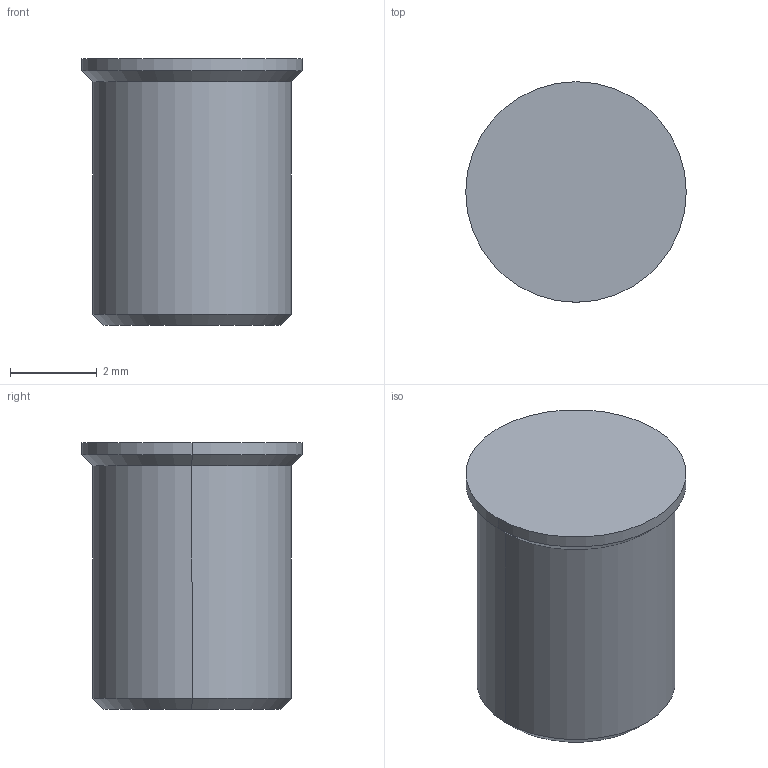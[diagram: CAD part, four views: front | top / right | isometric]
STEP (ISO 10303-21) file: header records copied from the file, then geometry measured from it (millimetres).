
FILE_DESCRIPTION (( 'STEP AP203' ), '1' );
FILE_NAME ('XP-U4-PUBLIC.STEP', '2011-02-03T16:43:56', ( '' ), ( '' ), 'SwSTEP 2.0', 'SolidWorks 2011', '' );
FILE_SCHEMA (( 'CONFIG_CONTROL_DESIGN' ));
Length unit declared in the file: inch
Products named in the file (1): XP-U4-PUBLIC
Bounding box: 5.08 x 5.08 x 6.15 mm (x, y, z)
Volume: 102 mm3; surface area: 125 mm2
Topology: 1 solids, 1 shells, 10 faces, 18 edges, 10 vertices
Faces by surface type: cone 4, cylinder 4, plane 2
Entity records: 323 total; most frequent: DIRECTION 50, CARTESIAN_POINT 39, ORIENTED_EDGE 36, AXIS2_PLACEMENT_3D 21, EDGE_CURVE 18, ADVANCED_FACE 10, CIRCLE 10, EDGE_LOOP 10
